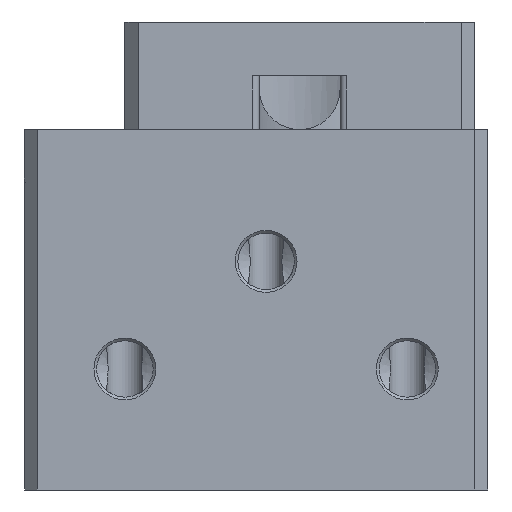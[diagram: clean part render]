
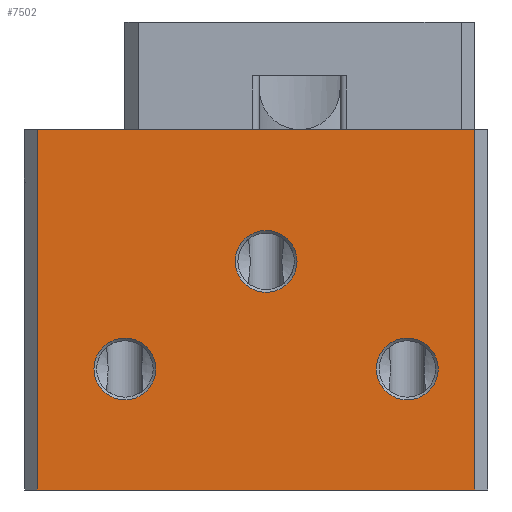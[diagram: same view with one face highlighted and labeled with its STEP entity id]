
A CAD part, front view. The second image highlights one B-rep face of the part: STEP entity #7502.
In plain terms, the highlighted planar face has unit normal (0, -1, 0).
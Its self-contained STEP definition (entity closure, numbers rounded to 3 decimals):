
#119=FACE_BOUND('',#1115,.T.);
#120=FACE_BOUND('',#1116,.T.);
#121=FACE_BOUND('',#1117,.T.);
#275=PLANE('',#8274);
#673=FACE_OUTER_BOUND('',#1114,.T.);
#1114=EDGE_LOOP('',(#6291,#6292,#6293,#6294));
#1115=EDGE_LOOP('',(#6295));
#1116=EDGE_LOOP('',(#6296));
#1117=EDGE_LOOP('',(#6297));
#1664=CIRCLE('',#8271,2.3);
#1667=CIRCLE('',#8275,2.3);
#1668=CIRCLE('',#8276,2.3);
#2160=LINE('',#13850,#2659);
#2178=LINE('',#13909,#2677);
#2180=LINE('',#13920,#2679);
#2189=LINE('',#13951,#2688);
#2659=VECTOR('',#10114,10.);
#2677=VECTOR('',#10164,10.);
#2679=VECTOR('',#10176,10.);
#2688=VECTOR('',#10215,10.);
#3330=VERTEX_POINT('',#13847);
#3331=VERTEX_POINT('',#13849);
#3355=VERTEX_POINT('',#13906);
#3356=VERTEX_POINT('',#13908);
#3365=VERTEX_POINT('',#13943);
#3368=VERTEX_POINT('',#13952);
#3369=VERTEX_POINT('',#13954);
#4327=EDGE_CURVE('',#3331,#3330,#2160,.T.);
#4357=EDGE_CURVE('',#3356,#3355,#2178,.T.);
#4363=EDGE_CURVE('',#3356,#3330,#2180,.T.);
#4375=EDGE_CURVE('',#3365,#3365,#1664,.T.);
#4379=EDGE_CURVE('',#3331,#3355,#2189,.T.);
#4380=EDGE_CURVE('',#3368,#3368,#1667,.T.);
#4381=EDGE_CURVE('',#3369,#3369,#1668,.T.);
#6291=ORIENTED_EDGE('',*,*,#4363,.F.);
#6292=ORIENTED_EDGE('',*,*,#4357,.T.);
#6293=ORIENTED_EDGE('',*,*,#4379,.F.);
#6294=ORIENTED_EDGE('',*,*,#4327,.T.);
#6295=ORIENTED_EDGE('',*,*,#4380,.F.);
#6296=ORIENTED_EDGE('',*,*,#4381,.F.);
#6297=ORIENTED_EDGE('',*,*,#4375,.F.);
#7502=ADVANCED_FACE('',(#673,#119,#120,#121),#275,.T.);
#8271=AXIS2_PLACEMENT_3D('',#13944,#10206,#10207);
#8274=AXIS2_PLACEMENT_3D('',#13950,#10213,#10214);
#8275=AXIS2_PLACEMENT_3D('',#13953,#10216,#10217);
#8276=AXIS2_PLACEMENT_3D('',#13955,#10218,#10219);
#10114=DIRECTION('',(-1.,0.,0.));
#10164=DIRECTION('',(1.,0.,0.));
#10176=DIRECTION('',(0.,0.,1.));
#10206=DIRECTION('center_axis',(0.,-1.,0.));
#10207=DIRECTION('ref_axis',(-1.,0.,0.));
#10213=DIRECTION('center_axis',(0.,-1.,0.));
#10214=DIRECTION('ref_axis',(0.,0.,-1.));
#10215=DIRECTION('',(0.,0.,-1.));
#10216=DIRECTION('center_axis',(0.,-1.,0.));
#10217=DIRECTION('ref_axis',(-1.,0.,0.));
#10218=DIRECTION('center_axis',(0.,-1.,0.));
#10219=DIRECTION('ref_axis',(-1.,0.,0.));
#13847=CARTESIAN_POINT('',(-33.5,-20.,0.));
#13849=CARTESIAN_POINT('',(-1.,-20.,0.));
#13850=CARTESIAN_POINT('',(0.,-20.,0.));
#13906=CARTESIAN_POINT('',(-1.,-20.,-26.8));
#13908=CARTESIAN_POINT('',(-33.5,-20.,-26.8));
#13909=CARTESIAN_POINT('',(0.,-20.,-26.8));
#13920=CARTESIAN_POINT('',(-33.5,-20.,0.));
#13943=CARTESIAN_POINT('',(-3.7,-20.,-17.8));
#13944=CARTESIAN_POINT('Origin',(-6.,-20.,-17.8));
#13950=CARTESIAN_POINT('Origin',(-34.5,-20.,0.));
#13951=CARTESIAN_POINT('',(-1.,-20.,0.));
#13952=CARTESIAN_POINT('',(-14.2,-20.,-9.8));
#13953=CARTESIAN_POINT('Origin',(-16.5,-20.,-9.8));
#13954=CARTESIAN_POINT('',(-24.7,-20.,-17.8));
#13955=CARTESIAN_POINT('Origin',(-27.,-20.,-17.8));
